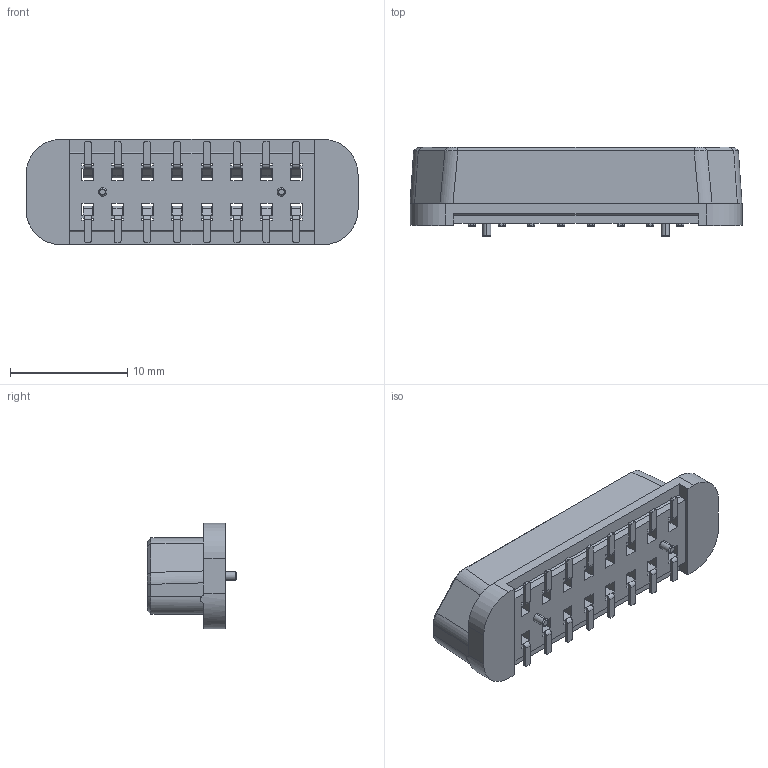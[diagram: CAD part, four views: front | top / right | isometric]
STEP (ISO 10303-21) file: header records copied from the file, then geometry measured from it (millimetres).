
FILE_DESCRIPTION (( 'STEP AP203' ), '1' );
FILE_NAME ('HC-PBB254A-1-16-F-H6.7-XX-P-04 (2.54 单槽 母座 立贴 带柱-HCTL).STEP', '2026-03-11T09:04:32', ( '' ), ( '' ), 'SwSTEP 2.0', 'SolidWorks 2025', '' );
FILE_SCHEMA (( 'CONFIG_CONTROL_DESIGN' ));
Length unit declared in the file: millimetre
Products named in the file (1): HC-PBB254A-1-16-F-H6.7-XX-P-04 (2.54 单槽 母座 立贴 带柱-HCTL)
Bounding box: 28.32 x 7.6 x 9 mm (x, y, z)
Volume: 773.9 mm3; surface area: 1600.1 mm2
Topology: 1 solids, 1 shells, 617 faces, 1986 edges, 1294 vertices
Faces by surface type: plane 409, cylinder 194, bspline 6, torus 4, cone 4
Entity records: 22371 total; most frequent: CARTESIAN_POINT 4426, ORIENTED_EDGE 3972, DIRECTION 3564, EDGE_CURVE 1986, VECTOR 1564, LINE 1564, VERTEX_POINT 1294, AXIS2_PLACEMENT_3D 1000
